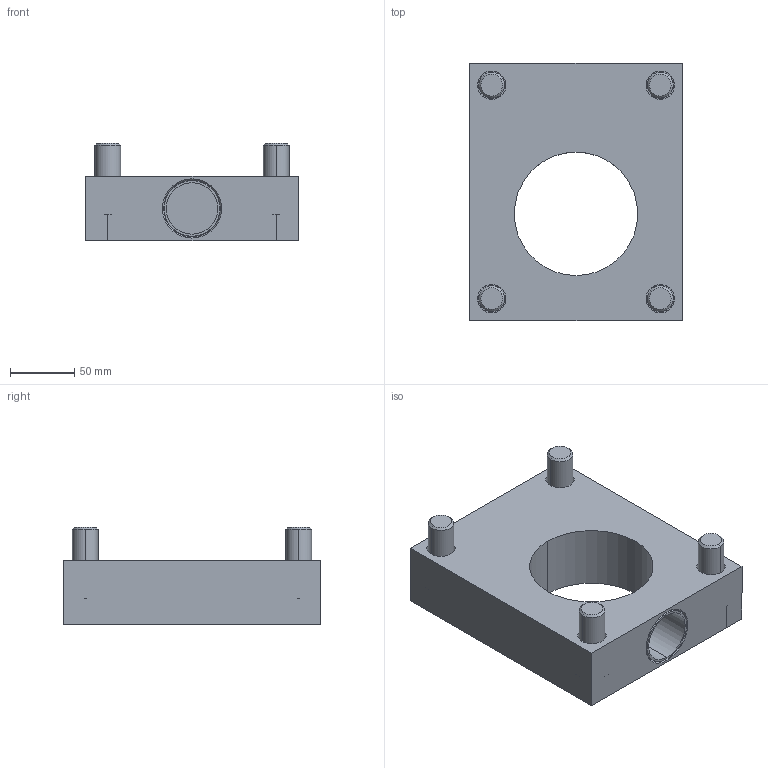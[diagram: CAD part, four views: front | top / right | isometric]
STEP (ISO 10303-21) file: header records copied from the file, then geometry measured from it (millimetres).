
FILE_DESCRIPTION (( 'STEP AP203' ), '1' );
FILE_NAME ('MJ5-KP(B1).STEP', '2024-01-16T09:59:29', ( '' ), ( '' ), 'SwSTEP 2.0', 'SolidWorks 2022', '' );
FILE_SCHEMA (( 'CONFIG_CONTROL_DESIGN' ));
Length unit declared in the file: millimetre
Products named in the file (1): MJ5-KP(B1)
Bounding box: 165 x 200 x 75.6 mm (x, y, z)
Volume: 1322918.1 mm3; surface area: 199702.4 mm2
Topology: 11 solids, 11 shells, 226 faces, 542 edges, 344 vertices
Faces by surface type: plane 88, cylinder 62, cone 44, torus 32
Entity records: 6539 total; most frequent: CARTESIAN_POINT 1225, DIRECTION 1164, ORIENTED_EDGE 1052, EDGE_CURVE 526, AXIS2_PLACEMENT_3D 475, VERTEX_POINT 344, EDGE_LOOP 262, CIRCLE 248
